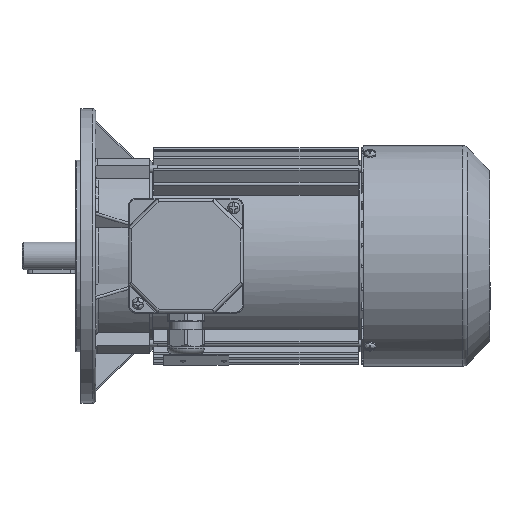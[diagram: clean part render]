
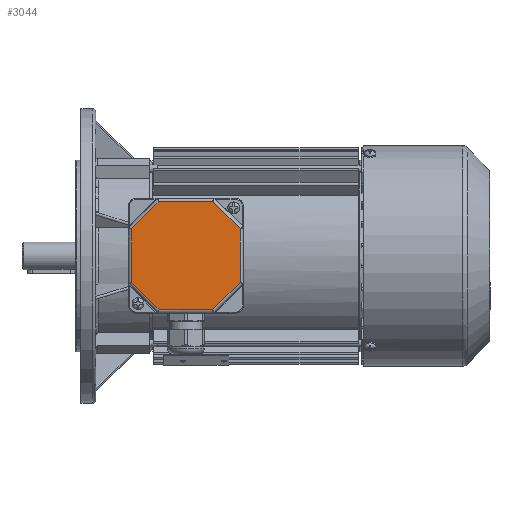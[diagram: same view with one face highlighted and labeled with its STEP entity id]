
A CAD part, top view. The second image highlights one B-rep face of the part: STEP entity #3044.
In plain terms, the highlighted planar face has unit normal (0, 0, 1).
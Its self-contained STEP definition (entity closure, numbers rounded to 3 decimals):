
#3044 = ADVANCED_FACE( '', ( #7707 ), #7708, .T. );
#7707 = FACE_OUTER_BOUND( '', #15545, .T. );
#7708 = PLANE( '', #15546 );
#15545 = EDGE_LOOP( '', ( #40122, #40123, #40124, #40125, #40126, #40127, #40128, #40129 ) );
#15546 = AXIS2_PLACEMENT_3D( '', #40130, #40131, #40132 );
#40122 = ORIENTED_EDGE( '', *, *, #59957, .T. );
#40123 = ORIENTED_EDGE( '', *, *, #59958, .T. );
#40124 = ORIENTED_EDGE( '', *, *, #59959, .T. );
#40125 = ORIENTED_EDGE( '', *, *, #59960, .T. );
#40126 = ORIENTED_EDGE( '', *, *, #59961, .T. );
#40127 = ORIENTED_EDGE( '', *, *, #59962, .T. );
#40128 = ORIENTED_EDGE( '', *, *, #59963, .T. );
#40129 = ORIENTED_EDGE( '', *, *, #59964, .T. );
#40130 = CARTESIAN_POINT( '', ( -39., 39., 12. ) );
#40131 = DIRECTION( '', ( 0., 0., 1. ) );
#40132 = DIRECTION( '', ( 1., 0., 0. ) );
#59957 = EDGE_CURVE( '', #69455, #69456, #69457, .F. );
#59958 = EDGE_CURVE( '', #69456, #68846, #69458, .T. );
#59959 = EDGE_CURVE( '', #68846, #69459, #69460, .F. );
#59960 = EDGE_CURVE( '', #69459, #69461, #69462, .T. );
#59961 = EDGE_CURVE( '', #69461, #69463, #69464, .F. );
#59962 = EDGE_CURVE( '', #69463, #69465, #69466, .T. );
#59963 = EDGE_CURVE( '', #69465, #69467, #69468, .F. );
#59964 = EDGE_CURVE( '', #69467, #69455, #69469, .T. );
#68846 = VERTEX_POINT( '', #80981 );
#69455 = VERTEX_POINT( '', #82496 );
#69456 = VERTEX_POINT( '', #82497 );
#69457 = LINE( '', #82498, #82499 );
#69458 = LINE( '', #82500, #82501 );
#69459 = VERTEX_POINT( '', #82502 );
#69460 = LINE( '', #82503, #82504 );
#69461 = VERTEX_POINT( '', #82505 );
#69462 = LINE( '', #82506, #82507 );
#69463 = VERTEX_POINT( '', #82508 );
#69464 = LINE( '', #82509, #82510 );
#69465 = VERTEX_POINT( '', #82511 );
#69466 = LINE( '', #82512, #82513 );
#69467 = VERTEX_POINT( '', #82514 );
#69468 = LINE( '', #82515, #82516 );
#69469 = LINE( '', #82517, #82518 );
#80981 = CARTESIAN_POINT( '', ( 18.255, 36.825, 12. ) );
#82496 = CARTESIAN_POINT( '', ( 36.825, -18.255, 12. ) );
#82497 = CARTESIAN_POINT( '', ( 36.825, 18.255, 12. ) );
#82498 = CARTESIAN_POINT( '', ( 36.825, 19.069, 12. ) );
#82499 = VECTOR( '', #113804, 1000. );
#82500 = CARTESIAN_POINT( '', ( 17.679, 37.401, 12. ) );
#82501 = VECTOR( '', #113805, 1000. );
#82502 = CARTESIAN_POINT( '', ( -18.255, 36.825, 12. ) );
#82503 = CARTESIAN_POINT( '', ( -19.069, 36.825, 12. ) );
#82504 = VECTOR( '', #113806, 1000. );
#82505 = CARTESIAN_POINT( '', ( -36.825, 18.255, 12. ) );
#82506 = CARTESIAN_POINT( '', ( -37.401, 17.679, 12. ) );
#82507 = VECTOR( '', #113807, 1000. );
#82508 = CARTESIAN_POINT( '', ( -36.825, -18.255, 12. ) );
#82509 = CARTESIAN_POINT( '', ( -36.825, -19.069, 12. ) );
#82510 = VECTOR( '', #113808, 1000. );
#82511 = CARTESIAN_POINT( '', ( -18.255, -36.825, 12. ) );
#82512 = CARTESIAN_POINT( '', ( -17.679, -37.401, 12. ) );
#82513 = VECTOR( '', #113809, 1000. );
#82514 = CARTESIAN_POINT( '', ( 18.255, -36.825, 12. ) );
#82515 = CARTESIAN_POINT( '', ( 19.069, -36.825, 12. ) );
#82516 = VECTOR( '', #113810, 1000. );
#82517 = CARTESIAN_POINT( '', ( 37.401, -17.679, 12. ) );
#82518 = VECTOR( '', #113811, 1000. );
#113804 = DIRECTION( '', ( 0., -1., 0. ) );
#113805 = DIRECTION( '', ( -0.707, 0.707, 0. ) );
#113806 = DIRECTION( '', ( 1., 0., 0. ) );
#113807 = DIRECTION( '', ( -0.707, -0.707, 0. ) );
#113808 = DIRECTION( '', ( 0., 1., 0. ) );
#113809 = DIRECTION( '', ( 0.707, -0.707, 0. ) );
#113810 = DIRECTION( '', ( -1., 0., 0. ) );
#113811 = DIRECTION( '', ( 0.707, 0.707, 0. ) );
